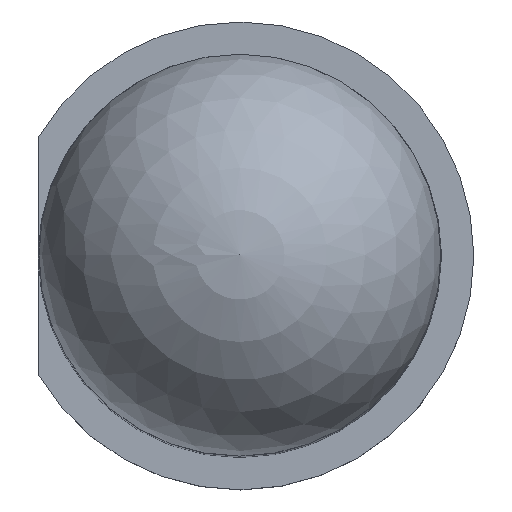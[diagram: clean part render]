
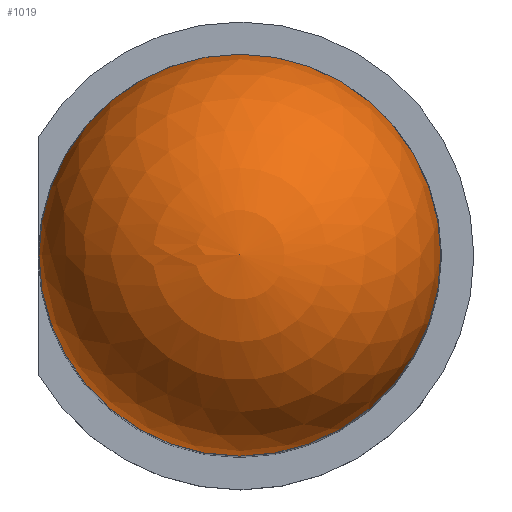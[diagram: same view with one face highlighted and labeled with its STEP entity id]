
A CAD part, top view. The second image highlights one B-rep face of the part: STEP entity #1019.
In plain terms, the highlighted spherical face has radius 2.491 mm.
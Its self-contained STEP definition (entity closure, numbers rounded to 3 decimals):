
#16=SPHERICAL_SURFACE('',#1100,2.491);
#46=CIRCLE('',#1101,2.491);
#47=CIRCLE('',#1102,2.491);
#48=CIRCLE('',#1103,2.491);
#305=FACE_OUTER_BOUND('',#363,.T.);
#363=EDGE_LOOP('',(#935,#936,#937,#938));
#499=VERTEX_POINT('',#2343);
#500=VERTEX_POINT('',#2344);
#501=VERTEX_POINT('',#2347);
#646=EDGE_CURVE('',#499,#500,#46,.T.);
#647=EDGE_CURVE('',#500,#499,#47,.T.);
#648=EDGE_CURVE('',#501,#500,#48,.T.);
#935=ORIENTED_EDGE('',*,*,#646,.F.);
#936=ORIENTED_EDGE('',*,*,#647,.F.);
#937=ORIENTED_EDGE('',*,*,#648,.F.);
#938=ORIENTED_EDGE('',*,*,#648,.T.);
#1019=ADVANCED_FACE('',(#305),#16,.T.);
#1100=AXIS2_PLACEMENT_3D('',#2342,#1305,#1306);
#1101=AXIS2_PLACEMENT_3D('',#2345,#1307,#1308);
#1102=AXIS2_PLACEMENT_3D('',#2346,#1309,#1310);
#1103=AXIS2_PLACEMENT_3D('',#2348,#1311,#1312);
#1305=DIRECTION('center_axis',(0.,0.,1.));
#1306=DIRECTION('ref_axis',(1.,0.,0.));
#1307=DIRECTION('center_axis',(0.,0.,-1.));
#1308=DIRECTION('ref_axis',(-1.,0.,0.));
#1309=DIRECTION('center_axis',(0.,0.,-1.));
#1310=DIRECTION('ref_axis',(-1.,0.,0.));
#1311=DIRECTION('center_axis',(0.,-1.,0.));
#1312=DIRECTION('ref_axis',(-1.,0.,0.));
#2342=CARTESIAN_POINT('Origin',(0.,0.,6.21));
#2343=CARTESIAN_POINT('',(2.491,0.,6.21));
#2344=CARTESIAN_POINT('',(-2.491,0.,6.21));
#2345=CARTESIAN_POINT('Origin',(0.,0.,6.21));
#2346=CARTESIAN_POINT('Origin',(0.,0.,6.21));
#2347=CARTESIAN_POINT('',(0.,0.,8.701));
#2348=CARTESIAN_POINT('Origin',(0.,0.,6.21));
